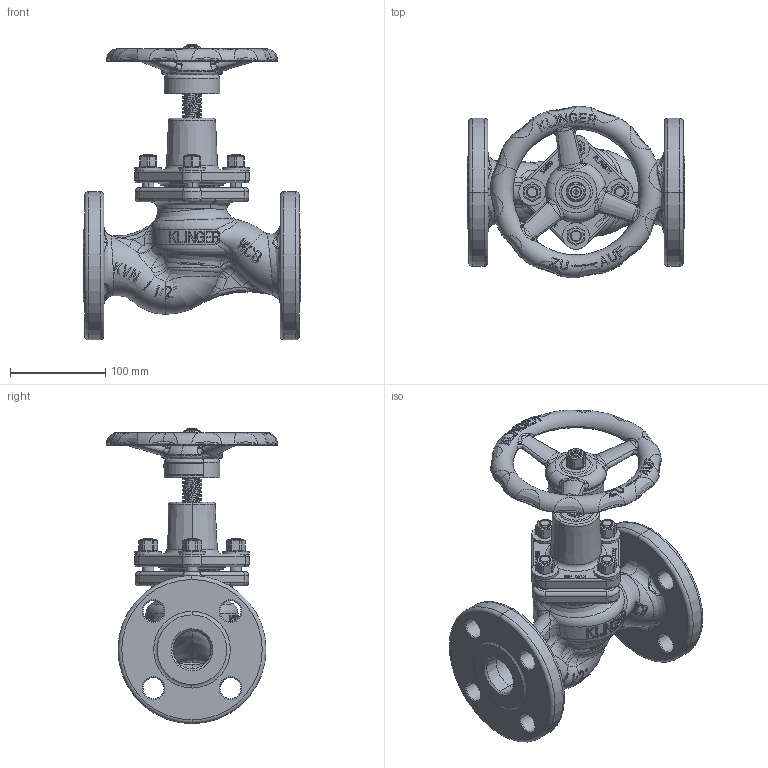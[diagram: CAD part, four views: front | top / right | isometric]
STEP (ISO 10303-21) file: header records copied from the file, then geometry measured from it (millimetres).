
FILE_DESCRIPTION((''),'2;1');
FILE_NAME('KVNFL-32S-----C300PGG_SW0001','2026-09-28T13:46:59',('jeitlers'),('KLINGER'),'CREO PARAMETRIC BY PTC INC, 2025443','CREO PARAMETRIC BY PTC INC, 2025443','');
FILE_SCHEMA(('CONFIG_CONTROL_DESIGN'));
Products named in the file (1): KVNFL-32S-----C300PGG_SW0001
Bounding box: 229 x 180 x 310.35 mm (x, y, z)
Volume: 1707215.6 mm3; surface area: 343143.7 mm2
Topology: 3 solids, 14 shells, 3011 faces, 7898 edges, 4984 vertices
Faces by surface type: plane 1587, bspline 634, cylinder 394, torus 279, cone 111, sphere 6
Entity records: 204452 total; most frequent: CARTESIAN_POINT 137075, ORIENTED_EDGE 15788, DIRECTION 11419, EDGE_CURVE 7894, VERTEX_POINT 4984, AXIS2_PLACEMENT_3D 4063, VECTOR 3293, LINE 3293
